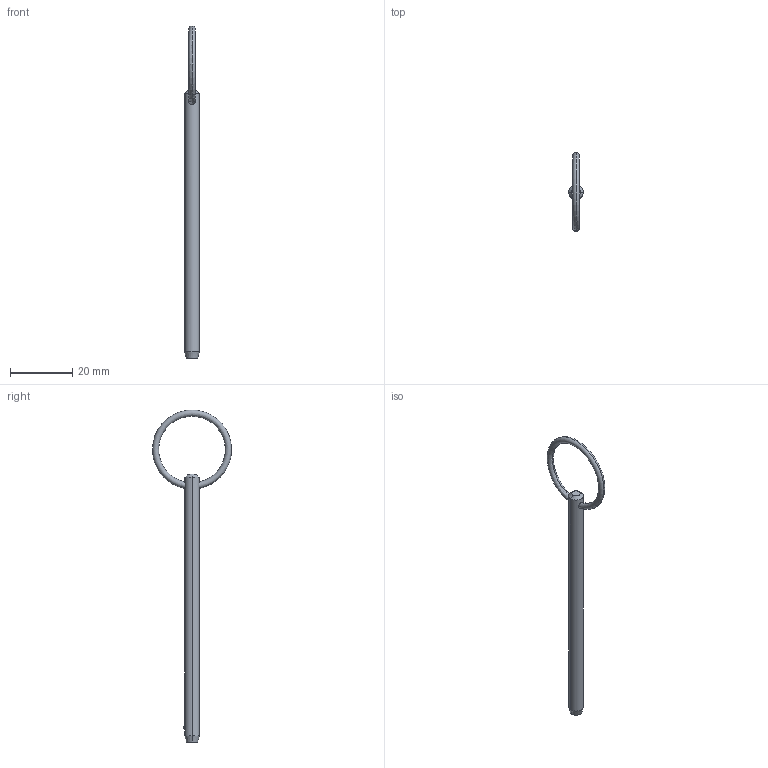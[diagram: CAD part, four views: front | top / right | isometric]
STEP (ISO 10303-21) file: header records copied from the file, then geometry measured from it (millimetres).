
FILE_DESCRIPTION (( 'STEP AP203' ), '1' );
FILE_NAME ('P1250.018-300.step', '2019-07-29T19:35:27', ( '' ), ( '' ), 'SwSTEP 2.0', 'SolidWorks 2017', '' );
FILE_SCHEMA (( 'CONFIG_CONTROL_DESIGN' ));
Length unit declared in the file: millimetre
Products named in the file (1): P1250.018-300
Bounding box: 4.76 x 25.4 x 106.68 mm (x, y, z)
Volume: 1733.3 mm3; surface area: 1729.5 mm2
Topology: 1 solids, 1 shells, 12 faces, 28 edges, 17 vertices
Faces by surface type: cone 4, torus 2, sphere 2, cylinder 2, plane 2
Entity records: 471 total; most frequent: CARTESIAN_POINT 138, DIRECTION 56, ORIENTED_EDGE 48, AXIS2_PLACEMENT_3D 25, EDGE_CURVE 24, EDGE_LOOP 15, VERTEX_POINT 15, CIRCLE 12
